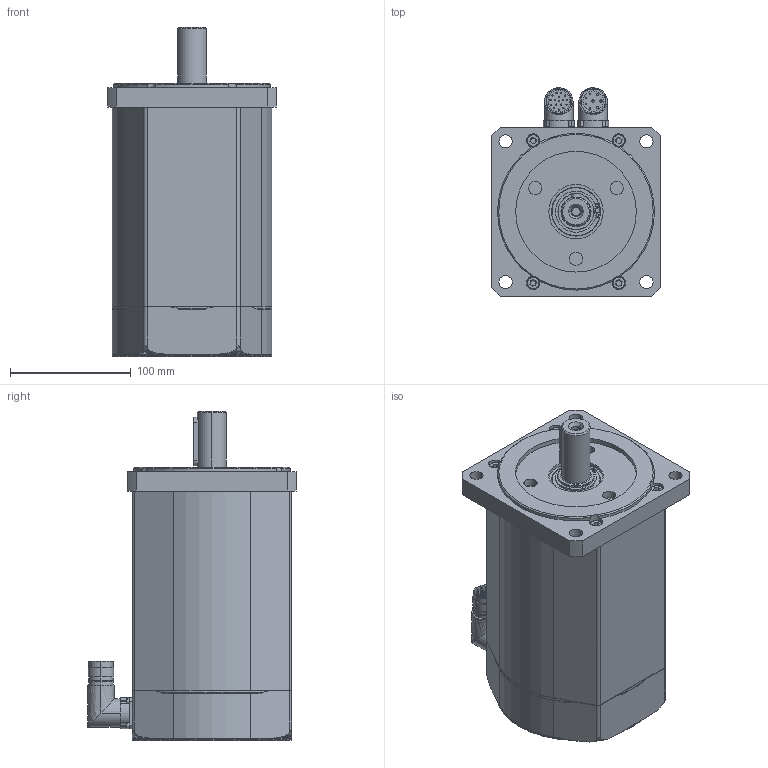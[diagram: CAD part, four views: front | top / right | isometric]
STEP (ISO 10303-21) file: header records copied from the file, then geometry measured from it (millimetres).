
FILE_DESCRIPTION (( 'STEP AP203' ), '1' );
FILE_NAME ('SSAX140S_SF.STEP', '2015-09-10T13:04:47', ( 'Tecnico motori' ), ( '' ), 'SwSTEP 2.0', 'SolidWorks 2010', '' );
FILE_SCHEMA (( 'CONFIG_CONTROL_DESIGN' ));
Length unit declared in the file: millimetre
Products named in the file (1): SSAX140S_SF
Bounding box: 140 x 173 x 272.85 mm (x, y, z)
Surface area: 174792.1 mm2 (no closed solid volume)
Topology: 0 solids, 32 shells, 457 faces, 1269 edges, 876 vertices
Faces by surface type: cylinder 211, plane 187, cone 29, torus 24, bspline 6
Entity records: 15808 total; most frequent: CARTESIAN_POINT 3689, DIRECTION 2713, ORIENTED_EDGE 2207, EDGE_CURVE 1269, AXIS2_PLACEMENT_3D 1066, VERTEX_POINT 876, CIRCLE 614, LINE 581
